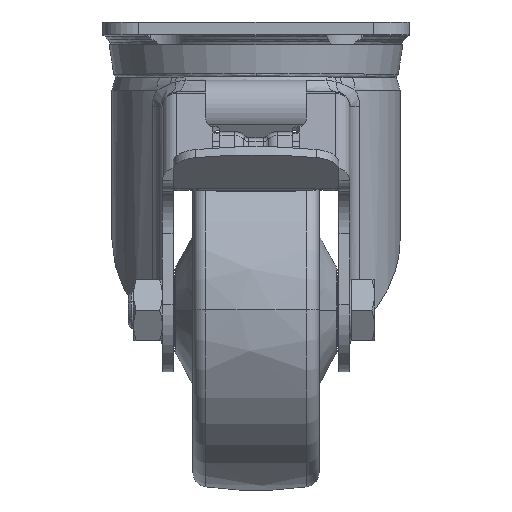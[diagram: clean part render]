
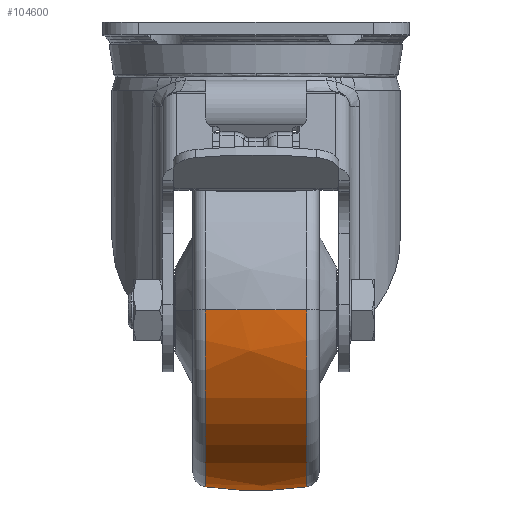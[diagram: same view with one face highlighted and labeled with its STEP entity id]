
A CAD part, top view. The second image highlights one B-rep face of the part: STEP entity #104600.
In plain terms, the highlighted free-form (B-spline) face has degree [3, 3] with [7, 4] control points.
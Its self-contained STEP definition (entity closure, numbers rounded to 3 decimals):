
#464 = CARTESIAN_POINT ( 'NONE',  ( -14.621, 0., 48.925 ) ) ;
#2112 = CARTESIAN_POINT ( 'NONE',  ( 14.621, 48.829, -3.072 ) ) ;
#3399 = CIRCLE ( 'NONE', #45426, 100. ) ;
#3946 = CARTESIAN_POINT ( 'NONE',  ( 0., 50., 0. ) ) ;
#6410 = VERTEX_POINT ( 'NONE', #77892 ) ;
#8480 = CARTESIAN_POINT ( 'NONE',  ( 14.621, -50.719, 26.977 ) ) ;
#10120 = CARTESIAN_POINT ( 'NONE',  ( -4.909, 52.207, 27.769 ) ) ;
#11154 = DIRECTION ( 'NONE',  ( -1., 0., 0. ) ) ;
#11792 = CARTESIAN_POINT ( 'NONE',  ( 14.621, 30.109, 48.925 ) ) ;
#11964 = DIRECTION ( 'NONE',  ( 0., 0., -1. ) ) ;
#13731 = EDGE_CURVE ( 'NONE', #119311, #55522, #13917, .T. ) ;
#13917 = CIRCLE ( 'NONE', #34581, 49.006 ) ;
#16007 = EDGE_CURVE ( 'NONE', #6410, #116634, #94946, .T. ) ;
#16523 = DIRECTION ( 'NONE',  ( 0.141, 0.99, 0. ) ) ;
#19429 = CARTESIAN_POINT ( 'NONE',  ( -14.621, -48.829, -3.072 ) ) ;
#19853 = CARTESIAN_POINT ( 'NONE',  ( -4.909, 50.261, -3.162 ) ) ;
#20692 = CARTESIAN_POINT ( 'NONE',  ( -4.909, 30.992, 50.361 ) ) ;
#25820 = DIRECTION ( 'NONE',  ( 0., 0., 1. ) ) ;
#29555 = CARTESIAN_POINT ( 'NONE',  ( -14.621, 50.719, 26.977 ) ) ;
#31215 = CARTESIAN_POINT ( 'NONE',  ( -14.621, 30.109, 48.925 ) ) ;
#34327 = ORIENTED_EDGE ( 'NONE', *, *, #40450, .F. ) ;
#34581 = AXIS2_PLACEMENT_3D ( 'NONE', #97728, #11154, #39856 ) ;
#35315 = CARTESIAN_POINT ( 'NONE',  ( 14.063, 0., 0. ) ) ;
#37545 = CARTESIAN_POINT ( 'NONE',  ( 4.909, -52.207, 27.769 ) ) ;
#38398 = CARTESIAN_POINT ( 'NONE',  ( 14.621, -48.829, -3.072 ) ) ;
#39856 = DIRECTION ( 'NONE',  ( 0., -1., 0. ) ) ;
#39885 = EDGE_CURVE ( 'NONE', #116634, #55522, #69954, .T. ) ;
#40060 = CARTESIAN_POINT ( 'NONE',  ( -4.909, -30.992, 50.361 ) ) ;
#40450 = EDGE_CURVE ( 'NONE', #6410, #119311, #3399, .T. ) ;
#40899 = CARTESIAN_POINT ( 'NONE',  ( 4.909, 52.207, 27.769 ) ) ;
#45426 = AXIS2_PLACEMENT_3D ( 'NONE', #3946, #11964, #79055 ) ;
#48895 = CARTESIAN_POINT ( 'NONE',  ( -14.621, -30.109, 48.925 ) ) ;
#49748 = CARTESIAN_POINT ( 'NONE',  ( -14.621, 48.829, -3.072 ) ) ;
#55522 = VERTEX_POINT ( 'NONE', #90874 ) ;
#56522 = CARTESIAN_POINT ( 'NONE',  ( -4.909, -50.261, -3.162 ) ) ;
#58598 = CARTESIAN_POINT ( 'NONE',  ( -4.909, 0., 50.361 ) ) ;
#59279 = ORIENTED_EDGE ( 'NONE', *, *, #13731, .F. ) ;
#62119 = FACE_OUTER_BOUND ( 'NONE', #122652, .T. ) ;
#63927 = AXIS2_PLACEMENT_3D ( 'NONE', #103064, #25820, #16523 ) ;
#64934 = CARTESIAN_POINT ( 'NONE',  ( -14.063, -49.006, 0. ) ) ;
#66411 = CARTESIAN_POINT ( 'NONE',  ( 14.063, 49.006, 0. ) ) ;
#67920 = CARTESIAN_POINT ( 'NONE',  ( 4.909, 50.261, -3.162 ) ) ;
#69565 = CARTESIAN_POINT ( 'NONE',  ( -14.621, -50.719, 26.977 ) ) ;
#69954 = CIRCLE ( 'NONE', #63927, 100. ) ;
#77226 = CARTESIAN_POINT ( 'NONE',  ( 4.909, -50.261, -3.162 ) ) ;
#77648 = CARTESIAN_POINT ( 'NONE',  ( 4.909, -30.992, 50.361 ) ) ;
#77892 = CARTESIAN_POINT ( 'NONE',  ( 14.063, -49.006, 0. ) ) ;
#78051 = CARTESIAN_POINT ( 'NONE',  ( 14.621, 0., 48.925 ) ) ;
#79055 = DIRECTION ( 'NONE',  ( 0.141, -0.99, 0. ) ) ;
#79323 = CARTESIAN_POINT ( 'NONE',  ( -4.909, -52.207, 27.769 ) ) ;
#82608 = DIRECTION ( 'NONE',  ( -1., 0., 0. ) ) ;
#88200 = CARTESIAN_POINT ( 'NONE',  ( 4.909, 0., 50.361 ) ) ;
#90874 = CARTESIAN_POINT ( 'NONE',  ( -14.063, 49.006, 0. ) ) ;
#92342 = DIRECTION ( 'NONE',  ( 0., -1., 0. ) ) ;
#93089 = AXIS2_PLACEMENT_3D ( 'NONE', #35315, #82608, #92342 ) ;
#94031 = ORIENTED_EDGE ( 'NONE', *, *, #16007, .T. ) ;
#94946 = CIRCLE ( 'NONE', #93089, 49.006 ) ;
#97728 = CARTESIAN_POINT ( 'NONE',  ( -14.063, 0., 0. ) ) ;
#103064 = CARTESIAN_POINT ( 'NONE',  ( 0., -50., 0. ) ) ;
#104600 = ADVANCED_FACE ( 'NONE', ( #62119 ), #115056, .T. ) ;
#106798 = CARTESIAN_POINT ( 'NONE',  ( 14.621, -30.109, 48.925 ) ) ;
#115056 =( BOUNDED_SURFACE ( )  B_SPLINE_SURFACE ( 3, 3, ( 
 ( #38398, #77226, #56522, #19429 ),
 ( #8480, #37545, #79323, #69565 ),
 ( #106798, #77648, #40060, #48895 ),
 ( #78051, #88200, #58598, #464 ),
 ( #11792, #117626, #20692, #31215 ),
 ( #116790, #40899, #10120, #29555 ),
 ( #2112, #67920, #19853, #49748 ) ),
 .UNSPECIFIED., .F., .F., .T. ) 
 B_SPLINE_SURFACE_WITH_KNOTS ( ( 4, 3, 4 ),
 ( 4, 4 ),
 ( 0., 1., 2. ),
 ( 0., 1. ),
 .UNSPECIFIED. ) 
 GEOMETRIC_REPRESENTATION_ITEM ( )  RATIONAL_B_SPLINE_SURFACE ( (
 ( 1.194, 1.185, 1.185, 1.194),
 ( 0.943, 0.936, 0.936, 0.943),
 ( 0.943, 0.936, 0.936, 0.943),
 ( 1.194, 1.185, 1.185, 1.194),
 ( 0.943, 0.936, 0.936, 0.943),
 ( 0.943, 0.936, 0.936, 0.943),
 ( 1.194, 1.185, 1.185, 1.194) ) ) 
 REPRESENTATION_ITEM ( '' )  SURFACE ( )  );
#116634 = VERTEX_POINT ( 'NONE', #66411 ) ;
#116680 = ORIENTED_EDGE ( 'NONE', *, *, #39885, .T. ) ;
#116790 = CARTESIAN_POINT ( 'NONE',  ( 14.621, 50.719, 26.977 ) ) ;
#117626 = CARTESIAN_POINT ( 'NONE',  ( 4.909, 30.992, 50.361 ) ) ;
#119311 = VERTEX_POINT ( 'NONE', #64934 ) ;
#122652 = EDGE_LOOP ( 'NONE', ( #94031, #116680, #59279, #34327 ) ) ;
